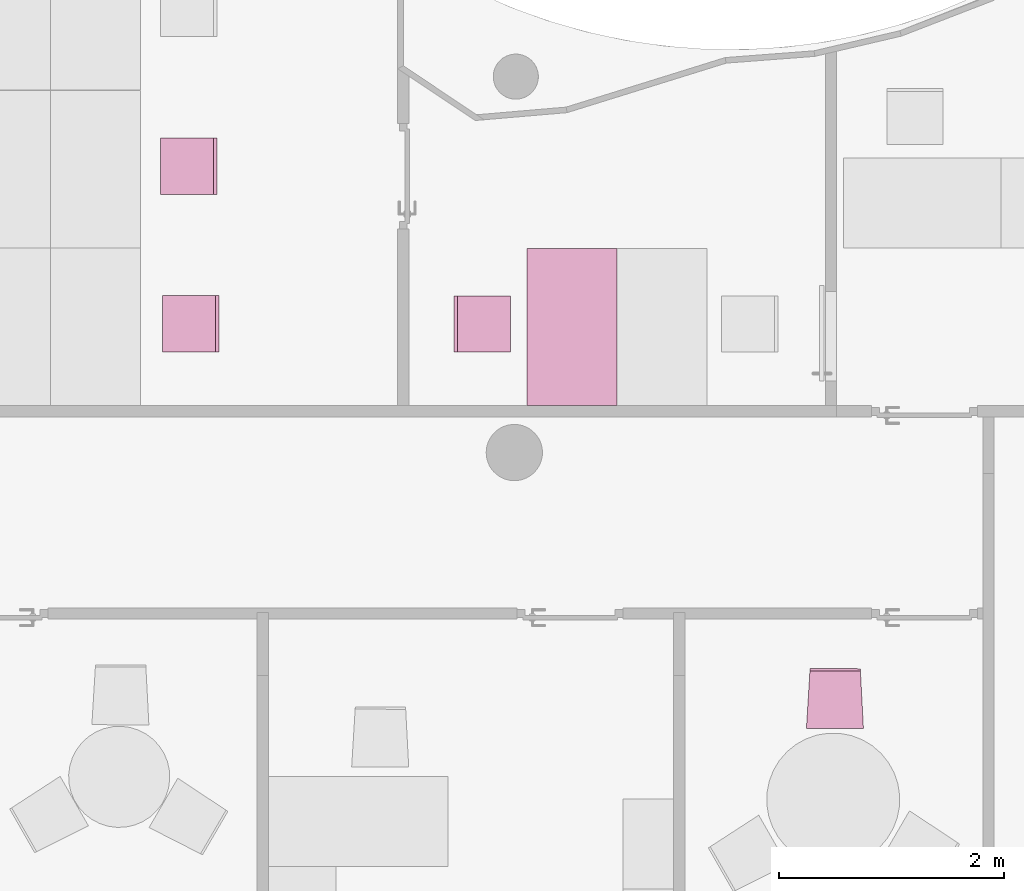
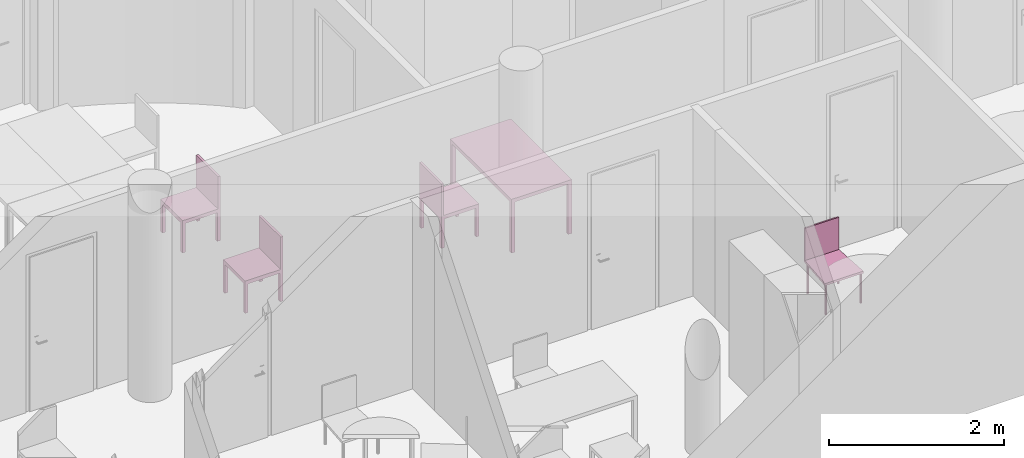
"""IFC4 building model written with IfcOpenShell, lengths in metres."""

from ifc_helpers import new_model, entity, si_unit, converted_unit, derived_unit, frame, origin, place, context, subcontext, project, spatial, faceted_brep, element, save


model = new_model("IFC4")

# Units and contexts
model_context = context("Model", 3, precision=1e-05, world=origin())
body_context = subcontext(model_context, "Body", "Model", "MODEL_VIEW")
ifc_project = project(units=[si_unit("LENGTHUNIT", "METRE"), si_unit("AREAUNIT", "SQUARE_METRE"), si_unit("VOLUMEUNIT", "CUBIC_METRE"), si_unit("MASSUNIT", "GRAM", prefix="KILO"), converted_unit("PLANEANGLEUNIT", "DEGREE", entity("IfcPlaneAngleMeasure", 0.0174532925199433), si_unit("PLANEANGLEUNIT", "RADIAN"), dimensions=[0, 0, 0, 0, 0, 0, 0]), derived_unit("THERMALTRANSMITTANCEUNIT", [(si_unit("POWERUNIT", "WATT"), 1), (si_unit("THERMODYNAMICTEMPERATUREUNIT", "KELVIN"), -1), (si_unit("LENGTHUNIT", "METRE"), -2)]), derived_unit("VOLUMETRICFLOWRATEUNIT", [(si_unit("LENGTHUNIT", "METRE"), 3), (converted_unit("TIMEUNIT", "hour", entity("IfcTimeMeasure", 3600.0), si_unit("TIMEUNIT", "SECOND"), dimensions=[0, 0, 1, 0, 0, 0, 0]), -1), (si_unit("LENGTHUNIT", "METRE"), -1)])], contexts=[model_context])

# Building, storeys
building_placement = place(None, origin())
building = spatial("IfcBuilding", under=ifc_project, at=building_placement, Name="HABITATGE PLURIFAMILIAR", CompositionType="ELEMENT")
storey_1_placement = place(building_placement, frame((0.0, 0.0, 9.26)))
storey_1 = spatial("IfcBuildingStorey", under=building, at=storey_1_placement, Name="PLANTA SEGONA", CompositionType="ELEMENT", Elevation=9.26)
storey_2_placement = place(storey_1_placement, frame((0.0, 0.0, 6.25)))
storey_2 = spatial("IfcBuildingStorey", under=storey_1, at=storey_2_placement, Name="NOU", CompositionType="PARTIAL")

# Furniture
furniture_1_placement = place(storey_2_placement, frame((407.590805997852, 20.093167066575, -6.34505686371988)))
element("IfcFurniture", 1, at=furniture_1_placement, inside=storey_2, Name="Cadira d'Oficina_P2", context=body_context, shape_type="Brep", body=[
    faceted_brep([(0.0, 0.0, 0.4), (0.5, 0.0, 0.4), (0.5, 0.5, 0.4), (0.0, 0.5, 0.4), (0.5, 0.0, 0.45), (0.0, 0.0, 0.45), (0.0, 0.5, 0.45), (0.5, 0.5, 0.45)], [[[0, 1, 2, 3]], [[4, 5, 6, 7]], [[1, 0, 5, 4]], [[2, 1, 4, 7]], [[3, 2, 7, 6]], [[0, 3, 6, 5]]], orient=[[False], [False], [False], [False], [False], [False]]),
    faceted_brep([(0.46, 0.5, 0.0), (0.46, 0.46, 0.0), (0.5, 0.46, 0.0), (0.5, 0.5, 0.0), (0.46, 0.46, 0.4), (0.46, 0.5, 0.4), (0.5, 0.5, 0.4), (0.5, 0.46, 0.4)], [[[0, 1, 2, 3]], [[4, 5, 6, 7]], [[1, 0, 5, 4]], [[2, 1, 4, 7]], [[3, 2, 7, 6]], [[0, 3, 6, 5]]], orient=[[False], [False], [False], [False], [False], [False]]),
    faceted_brep([(0.0, 0.5, 0.0), (0.0, 0.46, 0.0), (0.04, 0.46, 0.0), (0.04, 0.5, 0.0), (0.0, 0.46, 0.4), (0.0, 0.5, 0.4), (0.04, 0.5, 0.4), (0.04, 0.46, 0.4)], [[[0, 1, 2, 3]], [[4, 5, 6, 7]], [[1, 0, 5, 4]], [[2, 1, 4, 7]], [[3, 2, 7, 6]], [[0, 3, 6, 5]]], orient=[[False], [False], [False], [False], [False], [False]]),
    faceted_brep([(0.46, 0.04, 0.0), (0.46, 0.0, 0.0), (0.5, 0.0, 0.0), (0.5, 0.04, 0.0), (0.46, 0.0, 0.4), (0.46, 0.04, 0.4), (0.5, 0.04, 0.4), (0.5, 0.0, 0.4)], [[[0, 1, 2, 3]], [[4, 5, 6, 7]], [[1, 0, 5, 4]], [[2, 1, 4, 7]], [[3, 2, 7, 6]], [[0, 3, 6, 5]]], orient=[[False], [False], [False], [False], [False], [False]]),
    faceted_brep([(0.0, 0.04, 0.0), (0.0, 0.0, 0.0), (0.04, 0.0, 0.0), (0.04, 0.04, 0.0), (0.0, 0.0, 0.4), (0.0, 0.04, 0.4), (0.04, 0.04, 0.4), (0.04, 0.0, 0.4)], [[[0, 1, 2, 3]], [[4, 5, 6, 7]], [[1, 0, 5, 4]], [[2, 1, 4, 7]], [[3, 2, 7, 6]], [[0, 3, 6, 5]]], orient=[[False], [False], [False], [False], [False], [False]]),
    faceted_brep([(0.47, 0.5, 0.45), (0.47, 0.0, 0.45), (0.5, 0.0, 0.45), (0.5, 0.5, 0.45), (0.47, 0.0, 0.9), (0.47, 0.5, 0.9), (0.5, 0.5, 0.9), (0.5, 0.0, 0.9)], [[[0, 1, 2, 3]], [[4, 5, 6, 7]], [[1, 0, 5, 4]], [[2, 1, 4, 7]], [[3, 2, 7, 6]], [[0, 3, 6, 5]]], orient=[[False], [False], [False], [False], [False], [False]]),
])
furniture_2_placement = place(storey_2_placement, frame((407.609289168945, 18.693167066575, -6.34507213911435)))
element("IfcFurniture", 2, at=furniture_2_placement, inside=storey_2, Name="Cadira d'Oficina_P2", context=body_context, shape_type="Brep", body=[
    faceted_brep([(0.0, 0.0, 0.4), (0.5, 0.0, 0.4), (0.5, 0.5, 0.4), (0.0, 0.5, 0.4), (0.5, 0.0, 0.45), (0.0, 0.0, 0.45), (0.0, 0.5, 0.45), (0.5, 0.5, 0.45)], [[[0, 1, 2, 3]], [[4, 5, 6, 7]], [[1, 0, 5, 4]], [[2, 1, 4, 7]], [[3, 2, 7, 6]], [[0, 3, 6, 5]]], orient=[[False], [False], [False], [False], [False], [False]]),
    faceted_brep([(0.46, 0.5, 0.0), (0.46, 0.46, 0.0), (0.5, 0.46, 0.0), (0.5, 0.5, 0.0), (0.46, 0.46, 0.4), (0.46, 0.5, 0.4), (0.5, 0.5, 0.4), (0.5, 0.46, 0.4)], [[[0, 1, 2, 3]], [[4, 5, 6, 7]], [[1, 0, 5, 4]], [[2, 1, 4, 7]], [[3, 2, 7, 6]], [[0, 3, 6, 5]]], orient=[[False], [False], [False], [False], [False], [False]]),
    faceted_brep([(0.0, 0.5, 0.0), (0.0, 0.46, 0.0), (0.04, 0.46, 0.0), (0.04, 0.5, 0.0), (0.0, 0.46, 0.4), (0.0, 0.5, 0.4), (0.04, 0.5, 0.4), (0.04, 0.46, 0.4)], [[[0, 1, 2, 3]], [[4, 5, 6, 7]], [[1, 0, 5, 4]], [[2, 1, 4, 7]], [[3, 2, 7, 6]], [[0, 3, 6, 5]]], orient=[[False], [False], [False], [False], [False], [False]]),
    faceted_brep([(0.46, 0.04, 0.0), (0.46, 0.0, 0.0), (0.5, 0.0, 0.0), (0.5, 0.04, 0.0), (0.46, 0.0, 0.4), (0.46, 0.04, 0.4), (0.5, 0.04, 0.4), (0.5, 0.0, 0.4)], [[[0, 1, 2, 3]], [[4, 5, 6, 7]], [[1, 0, 5, 4]], [[2, 1, 4, 7]], [[3, 2, 7, 6]], [[0, 3, 6, 5]]], orient=[[False], [False], [False], [False], [False], [False]]),
    faceted_brep([(0.0, 0.04, 0.0), (0.0, 0.0, 0.0), (0.04, 0.0, 0.0), (0.04, 0.04, 0.0), (0.0, 0.0, 0.4), (0.0, 0.04, 0.4), (0.04, 0.04, 0.4), (0.04, 0.0, 0.4)], [[[0, 1, 2, 3]], [[4, 5, 6, 7]], [[1, 0, 5, 4]], [[2, 1, 4, 7]], [[3, 2, 7, 6]], [[0, 3, 6, 5]]], orient=[[False], [False], [False], [False], [False], [False]]),
    faceted_brep([(0.47, 0.5, 0.45), (0.47, 0.0, 0.45), (0.5, 0.0, 0.45), (0.5, 0.5, 0.45), (0.47, 0.0, 0.9), (0.47, 0.5, 0.9), (0.5, 0.5, 0.9), (0.5, 0.0, 0.9)], [[[0, 1, 2, 3]], [[4, 5, 6, 7]], [[1, 0, 5, 4]], [[2, 1, 4, 7]], [[3, 2, 7, 6]], [[0, 3, 6, 5]]], orient=[[False], [False], [False], [False], [False], [False]]),
])
furniture_3_placement = place(storey_2_placement, frame((410.846984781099, 18.2166469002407, -6.3499999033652)))
element("IfcFurniture", 3, at=furniture_3_placement, inside=storey_2, Name="Taula 140X80_P2", context=body_context, shape_type="Brep", body=[
    faceted_brep([(0.750069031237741, 1.35357768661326, 0.0), (0.800069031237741, 1.35357768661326, 0.0), (0.800069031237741, 1.39732768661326, 0.0), (0.750069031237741, 1.39732768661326, 0.0), (0.800069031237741, 1.35357768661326, 0.7), (0.750069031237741, 1.35357768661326, 0.7), (0.750069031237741, 1.39732768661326, 0.7), (0.800069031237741, 1.39732768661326, 0.7)], [[[0, 1, 2, 3]], [[4, 5, 6, 7]], [[1, 0, 5, 4]], [[2, 1, 4, 7]], [[3, 2, 7, 6]], [[0, 3, 6, 5]]], orient=[[False], [False], [False], [False], [False], [False]]),
    faceted_brep([(0.0, 1.35357768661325, 0.0), (0.05, 1.35357768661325, 0.0), (0.05, 1.39732768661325, 0.0), (0.0, 1.39732768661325, 0.0), (0.05, 1.35357768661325, 0.7), (0.0, 1.35357768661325, 0.7), (0.0, 1.39732768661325, 0.7), (0.05, 1.39732768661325, 0.7)], [[[0, 1, 2, 3]], [[4, 5, 6, 7]], [[1, 0, 5, 4]], [[2, 1, 4, 7]], [[3, 2, 7, 6]], [[0, 3, 6, 5]]], orient=[[False], [False], [False], [False], [False], [False]]),
    faceted_brep([(0.0, 0.0, 0.7), (0.800069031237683, 0.0, 0.7), (0.800069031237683, 1.39732768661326, 0.7), (0.0, 1.39732768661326, 0.7), (0.800069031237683, 0.0, 0.75), (0.0, 0.0, 0.75), (0.0, 1.39732768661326, 0.75), (0.800069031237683, 1.39732768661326, 0.75)], [[[0, 1, 2, 3]], [[4, 5, 6, 7]], [[1, 0, 5, 4]], [[2, 1, 4, 7]], [[3, 2, 7, 6]], [[0, 3, 6, 5]]], orient=[[False], [False], [False], [False], [False], [False]]),
    faceted_brep([(0.750069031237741, 0.0, 0.0), (0.800069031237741, 0.0, 0.0), (0.800069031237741, 0.0437500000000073, 0.0), (0.750069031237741, 0.0437500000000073, 0.0), (0.800069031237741, 0.0, 0.7), (0.750069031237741, 0.0, 0.7), (0.750069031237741, 0.0437500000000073, 0.7), (0.800069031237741, 0.0437500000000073, 0.7)], [[[0, 1, 2, 3]], [[4, 5, 6, 7]], [[1, 0, 5, 4]], [[2, 1, 4, 7]], [[3, 2, 7, 6]], [[0, 3, 6, 5]]], orient=[[False], [False], [False], [False], [False], [False]]),
    faceted_brep([(0.0, 0.0, 0.0), (0.05, 0.0, 0.0), (0.05, 0.04375, 0.0), (0.0, 0.04375, 0.0), (0.05, 0.0, 0.7), (0.0, 0.0, 0.7), (0.0, 0.04375, 0.7), (0.05, 0.04375, 0.7)], [[[0, 1, 2, 3]], [[4, 5, 6, 7]], [[1, 0, 5, 4]], [[2, 1, 4, 7]], [[3, 2, 7, 6]], [[0, 3, 6, 5]]], orient=[[False], [False], [False], [False], [False], [False]]),
])
furniture_4_placement = place(storey_2_placement, frame((410.197868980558, 18.6919879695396, -6.34505686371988)))
element("IfcFurniture", 4, at=furniture_4_placement, inside=storey_2, Name="Cadira d'Oficina_P2", context=body_context, shape_type="Brep", body=[
    faceted_brep([(0.5, 0.0, 0.4), (0.5, 0.5, 0.4), (0.0, 0.5, 0.4), (0.0, 0.0, 0.4), (0.0, 0.0, 0.45), (0.0, 0.5, 0.45), (0.5, 0.5, 0.45), (0.5, 0.0, 0.45)], [[[0, 1, 2, 3]], [[4, 5, 6, 7]], [[3, 4, 7, 0]], [[2, 5, 4, 3]], [[1, 6, 5, 2]], [[0, 7, 6, 1]]], orient=[[False], [False], [False], [False], [False], [False]]),
    faceted_brep([(0.04, 0.5, 0.0), (0.0, 0.5, 0.0), (0.0, 0.46, 0.0), (0.04, 0.46, 0.0), (0.04, 0.46, 0.4), (0.0, 0.46, 0.4), (0.0, 0.5, 0.4), (0.04, 0.5, 0.4)], [[[0, 1, 2, 3]], [[4, 5, 6, 7]], [[3, 4, 7, 0]], [[2, 5, 4, 3]], [[1, 6, 5, 2]], [[0, 7, 6, 1]]], orient=[[False], [False], [False], [False], [False], [False]]),
    faceted_brep([(0.5, 0.5, 0.0), (0.46, 0.5, 0.0), (0.46, 0.46, 0.0), (0.5, 0.46, 0.0), (0.5, 0.46, 0.4), (0.46, 0.46, 0.4), (0.46, 0.5, 0.4), (0.5, 0.5, 0.4)], [[[0, 1, 2, 3]], [[4, 5, 6, 7]], [[3, 4, 7, 0]], [[2, 5, 4, 3]], [[1, 6, 5, 2]], [[0, 7, 6, 1]]], orient=[[False], [False], [False], [False], [False], [False]]),
    faceted_brep([(0.04, 0.04, 0.0), (0.0, 0.04, 0.0), (0.0, 0.0, 0.0), (0.04, 0.0, 0.0), (0.04, 0.0, 0.4), (0.0, 0.0, 0.4), (0.0, 0.04, 0.4), (0.04, 0.04, 0.4)], [[[0, 1, 2, 3]], [[4, 5, 6, 7]], [[3, 4, 7, 0]], [[2, 5, 4, 3]], [[1, 6, 5, 2]], [[0, 7, 6, 1]]], orient=[[False], [False], [False], [False], [False], [False]]),
    faceted_brep([(0.5, 0.04, 0.0), (0.46, 0.04, 0.0), (0.46, 0.0, 0.0), (0.5, 0.0, 0.0), (0.5, 0.0, 0.4), (0.46, 0.0, 0.4), (0.46, 0.04, 0.4), (0.5, 0.04, 0.4)], [[[0, 1, 2, 3]], [[4, 5, 6, 7]], [[3, 4, 7, 0]], [[2, 5, 4, 3]], [[1, 6, 5, 2]], [[0, 7, 6, 1]]], orient=[[False], [False], [False], [False], [False], [False]]),
    faceted_brep([(0.03, 0.5, 0.45), (0.0, 0.5, 0.45), (0.0, 0.0, 0.45), (0.03, 0.0, 0.45), (0.03, 0.0, 0.9), (0.0, 0.0, 0.9), (0.0, 0.5, 0.9), (0.03, 0.5, 0.9)], [[[0, 1, 2, 3]], [[4, 5, 6, 7]], [[3, 4, 7, 0]], [[2, 5, 4, 3]], [[1, 6, 5, 2]], [[0, 7, 6, 1]]], orient=[[False], [False], [False], [False], [False], [False]]),
])
furniture_5_placement = place(storey_2_placement, frame((413.329033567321, 15.3458010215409, -6.3514820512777)))
element("IfcFurniture", 5, at=furniture_5_placement, inside=storey_2, Name="Cadira confident_P2", context=body_context, shape_type="Brep", body=[
    faceted_brep([(0.0392724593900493, 0.0271272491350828, 0.0), (0.0390567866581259, 0.0297221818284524, 0.0), (0.038393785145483, 0.0322402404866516, 0.0), (0.0373035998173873, 0.0346049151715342, 0.0), (0.0358193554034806, 0.036744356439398, 0.0), (0.0339861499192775, 0.0385935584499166, 0.0), (0.0318596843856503, 0.0400963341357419, 0.0), (0.0295045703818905, 0.0412070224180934, 0.0), (0.0269923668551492, 0.0418918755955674, 0.0), (0.024399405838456, 0.0421300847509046, 0.0), (0.0218044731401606, 0.041914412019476, 0.0), (0.0192864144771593, 0.04125141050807, 0.0), (0.0169217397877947, 0.040161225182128, 0.0), (0.0147822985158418, 0.0386769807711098, 0.0), (0.012933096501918, 0.0368437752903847, 0.0), (0.0114303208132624, 0.0347173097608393, 0.0), (0.0103196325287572, 0.0323621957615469, 0.0), (0.00963477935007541, 0.0298499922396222, 0.0), (0.00939657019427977, 0.0272570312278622, 0.0), (0.00961224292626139, 0.0246620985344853, 0.0), (0.0102752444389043, 0.0221440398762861, 0.0), (0.0113654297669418, 0.0197793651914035, 0.0), (0.0128496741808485, 0.0176399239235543, 0.0), (0.0146828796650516, 0.0157907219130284, 0.0), (0.016809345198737, 0.0142879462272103, 0.0), (0.0191644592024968, 0.0131772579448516, 0.0), (0.02167666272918, 0.0124924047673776, 0.0), (0.0242696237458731, 0.0122541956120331, 0.0), (0.0268645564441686, 0.012469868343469, 0.0), (0.0293826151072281, 0.013132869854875, 0.0), (0.0317472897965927, 0.0142230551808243, 0.0), (0.0338867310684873, 0.0157072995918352, 0.0), (0.0357359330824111, 0.0175405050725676, 0.0), (0.0372387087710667, 0.0196669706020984, 0.0), (0.0383493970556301, 0.0220220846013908, 0.0), (0.0390342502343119, 0.0245342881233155, 0.0), (0.0392724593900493, 0.0271272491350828, 0.448281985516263), (0.0390342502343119, 0.0245342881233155, 0.448281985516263), (0.0383493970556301, 0.0220220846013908, 0.448281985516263), (0.0372387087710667, 0.0196669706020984, 0.448281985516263), (0.0357359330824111, 0.0175405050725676, 0.448281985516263), (0.0338867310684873, 0.0157072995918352, 0.448281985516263), (0.0317472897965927, 0.0142230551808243, 0.448281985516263), (0.0293826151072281, 0.013132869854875, 0.448281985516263), (0.0268645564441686, 0.012469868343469, 0.448281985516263), (0.0242696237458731, 0.0122541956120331, 0.448281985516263), (0.02167666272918, 0.0124924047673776, 0.448281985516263), (0.0191644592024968, 0.0131772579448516, 0.448281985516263), (0.016809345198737, 0.0142879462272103, 0.448281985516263), (0.0146828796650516, 0.0157907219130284, 0.448281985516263), (0.0128496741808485, 0.0176399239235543, 0.448281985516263), (0.0113654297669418, 0.0197793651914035, 0.448281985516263), (0.0102752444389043, 0.0221440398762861, 0.448281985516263), (0.00961224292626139, 0.0246620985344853, 0.448281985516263), (0.00939657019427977, 0.0272570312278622, 0.448281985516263), (0.00963477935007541, 0.0298499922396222, 0.448281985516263), (0.0103196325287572, 0.0323621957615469, 0.448281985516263), (0.0114303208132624, 0.0347173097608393, 0.448281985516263), (0.012933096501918, 0.0368437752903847, 0.448281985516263), (0.0147822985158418, 0.0386769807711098, 0.448281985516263), (0.0169217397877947, 0.040161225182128, 0.448281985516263), (0.0192864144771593, 0.04125141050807, 0.448281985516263), (0.0218044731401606, 0.041914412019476, 0.448281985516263), (0.024399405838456, 0.0421300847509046, 0.448281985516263), (0.0269923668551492, 0.0418918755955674, 0.448281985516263), (0.0295045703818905, 0.0412070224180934, 0.448281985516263), (0.0318596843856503, 0.0400963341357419, 0.448281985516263), (0.0339861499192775, 0.0385935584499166, 0.448281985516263), (0.0358193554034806, 0.036744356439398, 0.448281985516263), (0.0373035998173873, 0.0346049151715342, 0.448281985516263), (0.038393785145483, 0.0322402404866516, 0.448281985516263), (0.0390567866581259, 0.0297221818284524, 0.448281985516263)], [[[0, 1, 2, 3, 4, 5, 6, 7, 8, 9, 10, 11, 12, 13, 14, 15, 16, 17, 18, 19, 20, 21, 22, 23, 24, 25, 26, 27, 28, 29, 30, 31, 32, 33, 34, 35]], [[36, 37, 38, 39, 40, 41, 42, 43, 44, 45, 46, 47, 48, 49, 50, 51, 52, 53, 54, 55, 56, 57, 58, 59, 60, 61, 62, 63, 64, 65, 66, 67, 68, 69, 70, 71]], [[1, 0, 36, 71]], [[2, 1, 71, 70]], [[3, 2, 70, 69]], [[4, 3, 69, 68]], [[5, 4, 68, 67]], [[6, 5, 67, 66]], [[7, 6, 66, 65]], [[8, 7, 65, 64]], [[9, 8, 64, 63]], [[10, 9, 63, 62]], [[11, 10, 62, 61]], [[12, 11, 61, 60]], [[13, 12, 60, 59]], [[14, 13, 59, 58]], [[15, 14, 58, 57]], [[16, 15, 57, 56]], [[17, 16, 56, 55]], [[18, 17, 55, 54]], [[19, 18, 54, 53]], [[20, 19, 53, 52]], [[21, 20, 52, 51]], [[22, 21, 51, 50]], [[23, 22, 50, 49]], [[24, 23, 49, 48]], [[25, 24, 48, 47]], [[26, 25, 47, 46]], [[27, 26, 46, 45]], [[28, 27, 45, 44]], [[29, 28, 44, 43]], [[30, 29, 43, 42]], [[31, 30, 42, 41]], [[32, 31, 41, 40]], [[33, 32, 40, 39]], [[34, 33, 39, 38]], [[35, 34, 38, 37]], [[0, 35, 37, 36]]], orient=[[False], [False], [False], [False], [False], [False], [False], [False], [False], [False], [False], [False], [False], [False], [False], [False], [False], [False], [False], [False], [False], [False], [False], [False], [False], [False], [False], [False], [False], [False], [False], [False], [False], [False], [False], [False], [False], [False]]),
    faceted_brep([(0.0689188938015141, 0.489409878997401, 0.0), (0.0687032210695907, 0.492004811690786, 0.0), (0.0680402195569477, 0.494522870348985, 0.0), (0.066950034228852, 0.49688754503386, 0.0), (0.0654657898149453, 0.499026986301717, 0.0), (0.0636325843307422, 0.500876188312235, 0.0), (0.0615061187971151, 0.50237896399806, 0.0), (0.059151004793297, 0.503489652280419, 0.0), (0.0566388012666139, 0.504174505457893, 0.0), (0.0540458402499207, 0.50441271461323, 0.0), (0.0514509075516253, 0.504197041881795, 0.0), (0.048932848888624, 0.503534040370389, 0.0), (0.0465681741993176, 0.502443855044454, 0.0), (0.0444287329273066, 0.500959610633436, 0.0), (0.0425795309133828, 0.499126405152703, 0.0), (0.0410767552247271, 0.496999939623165, 0.0), (0.0399660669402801, 0.49464482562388, 0.0), (0.0392812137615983, 0.492132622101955, 0.0), (0.0390430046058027, 0.489539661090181, 0.0), (0.0392586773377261, 0.486944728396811, 0.0), (0.0399216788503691, 0.484426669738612, 0.0), (0.0410118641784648, 0.482061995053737, 0.0), (0.0424961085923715, 0.479922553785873, 0.0), (0.0443293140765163, 0.478073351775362, 0.0), (0.0464557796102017, 0.476570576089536, 0.0), (0.0488108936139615, 0.47545988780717, 0.0), (0.0513230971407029, 0.474775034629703, 0.0), (0.053916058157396, 0.474536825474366, 0.0), (0.0565109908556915, 0.474752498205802, 0.0), (0.0590290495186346, 0.475415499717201, 0.0), (0.0613937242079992, 0.476505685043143, 0.0), (0.063533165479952, 0.477989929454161, 0.0), (0.065382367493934, 0.479823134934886, 0.0), (0.0668851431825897, 0.481949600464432, 0.0), (0.0679958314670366, 0.484304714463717, 0.0), (0.0686806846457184, 0.486816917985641, 0.0), (0.0689188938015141, 0.489409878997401, 0.448281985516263), (0.0686806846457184, 0.486816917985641, 0.448281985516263), (0.0679958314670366, 0.484304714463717, 0.448281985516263), (0.0668851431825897, 0.481949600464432, 0.448281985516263), (0.065382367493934, 0.479823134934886, 0.448281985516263), (0.063533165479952, 0.477989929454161, 0.448281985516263), (0.0613937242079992, 0.476505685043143, 0.448281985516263), (0.0590290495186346, 0.475415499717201, 0.448281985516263), (0.0565109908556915, 0.474752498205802, 0.448281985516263), (0.053916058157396, 0.474536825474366, 0.448281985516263), (0.0513230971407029, 0.474775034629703, 0.448281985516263), (0.0488108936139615, 0.47545988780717, 0.448281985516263), (0.0464557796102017, 0.476570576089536, 0.448281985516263), (0.0443293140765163, 0.478073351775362, 0.448281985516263), (0.0424961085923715, 0.479922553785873, 0.448281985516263), (0.0410118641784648, 0.482061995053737, 0.448281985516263), (0.0399216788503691, 0.484426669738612, 0.448281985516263), (0.0392586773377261, 0.486944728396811, 0.448281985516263), (0.0390430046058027, 0.489539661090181, 0.448281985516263), (0.0392812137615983, 0.492132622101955, 0.448281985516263), (0.0399660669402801, 0.49464482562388, 0.448281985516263), (0.0410767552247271, 0.496999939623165, 0.448281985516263), (0.0425795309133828, 0.499126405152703, 0.448281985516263), (0.0444287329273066, 0.500959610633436, 0.448281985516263), (0.0465681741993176, 0.502443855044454, 0.448281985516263), (0.048932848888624, 0.503534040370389, 0.448281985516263), (0.0514509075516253, 0.504197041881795, 0.448281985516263), (0.0540458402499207, 0.50441271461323, 0.448281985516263), (0.0566388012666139, 0.504174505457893, 0.448281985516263), (0.059151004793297, 0.503489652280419, 0.448281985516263), (0.0615061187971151, 0.50237896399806, 0.448281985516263), (0.0636325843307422, 0.500876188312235, 0.448281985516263), (0.0654657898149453, 0.499026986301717, 0.448281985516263), (0.066950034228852, 0.49688754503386, 0.448281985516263), (0.0680402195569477, 0.494522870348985, 0.448281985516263), (0.0687032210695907, 0.492004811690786, 0.448281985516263)], [[[0, 1, 2, 3, 4, 5, 6, 7, 8, 9, 10, 11, 12, 13, 14, 15, 16, 17, 18, 19, 20, 21, 22, 23, 24, 25, 26, 27, 28, 29, 30, 31, 32, 33, 34, 35]], [[36, 37, 38, 39, 40, 41, 42, 43, 44, 45, 46, 47, 48, 49, 50, 51, 52, 53, 54, 55, 56, 57, 58, 59, 60, 61, 62, 63, 64, 65, 66, 67, 68, 69, 70, 71]], [[1, 0, 36, 71]], [[2, 1, 71, 70]], [[3, 2, 70, 69]], [[4, 3, 69, 68]], [[5, 4, 68, 67]], [[6, 5, 67, 66]], [[7, 6, 66, 65]], [[8, 7, 65, 64]], [[9, 8, 64, 63]], [[10, 9, 63, 62]], [[11, 10, 62, 61]], [[12, 11, 61, 60]], [[13, 12, 60, 59]], [[14, 13, 59, 58]], [[15, 14, 58, 57]], [[16, 15, 57, 56]], [[17, 16, 56, 55]], [[18, 17, 55, 54]], [[19, 18, 54, 53]], [[20, 19, 53, 52]], [[21, 20, 52, 51]], [[22, 21, 51, 50]], [[23, 22, 50, 49]], [[24, 23, 49, 48]], [[25, 24, 48, 47]], [[26, 25, 47, 46]], [[27, 26, 46, 45]], [[28, 27, 45, 44]], [[29, 28, 44, 43]], [[30, 29, 43, 42]], [[31, 30, 42, 41]], [[32, 31, 41, 40]], [[33, 32, 40, 39]], [[34, 33, 39, 38]], [[35, 34, 38, 37]], [[0, 35, 37, 36]]], orient=[[False], [False], [False], [False], [False], [False], [False], [False], [False], [False], [False], [False], [False], [False], [False], [False], [False], [False], [False], [False], [False], [False], [False], [False], [False], [False], [False], [False], [False], [False], [False], [False], [False], [False], [False], [False], [False], [False]]),
    faceted_brep([(0.499268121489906, 0.0251290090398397, 0.0), (0.499052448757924, 0.0277239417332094, 0.0), (0.498389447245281, 0.0302420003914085, 0.0), (0.497299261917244, 0.0326066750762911, 0.0), (0.495815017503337, 0.0347461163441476, 0.0), (0.493981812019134, 0.0365953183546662, 0.0), (0.491855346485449, 0.0380980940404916, 0.0), (0.489500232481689, 0.0392087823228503, 0.0), (0.486988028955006, 0.0398936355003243, 0.0), (0.484395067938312, 0.0401318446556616, 0.0), (0.481800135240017, 0.0399161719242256, 0.0), (0.479282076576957, 0.0392531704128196, 0.0), (0.476917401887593, 0.0381629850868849, 0.0), (0.474777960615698, 0.0366787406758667, 0.0), (0.472928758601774, 0.0348455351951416, 0.0), (0.471425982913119, 0.0327190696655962, 0.0), (0.470315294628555, 0.0303639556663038, 0.0), (0.469630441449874, 0.0278517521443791, 0.0), (0.469392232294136, 0.0252587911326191, 0.0), (0.46960790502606, 0.0226638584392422, 0.0), (0.470270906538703, 0.020145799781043, 0.0), (0.471361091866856, 0.0177811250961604, 0.0), (0.472845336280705, 0.0156416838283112, 0.0), (0.474678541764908, 0.0137924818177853, 0.0), (0.476805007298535, 0.0122897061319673, 0.0), (0.479160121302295, 0.0111790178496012, 0.0), (0.481672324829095, 0.0104941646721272, 0.0), (0.48426528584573, 0.01025595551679, 0.0), (0.486860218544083, 0.0104716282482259, 0.0), (0.489378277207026, 0.0111346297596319, 0.0), (0.491742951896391, 0.0122248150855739, 0.0), (0.493882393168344, 0.0137090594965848, 0.0), (0.495731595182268, 0.0155422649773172, 0.0), (0.497234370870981, 0.0176687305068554, 0.0), (0.498345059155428, 0.0200238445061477, 0.0), (0.49902991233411, 0.0225360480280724, 0.0), (0.499268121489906, 0.0251290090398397, 0.448281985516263), (0.49902991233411, 0.0225360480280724, 0.448281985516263), (0.498345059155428, 0.0200238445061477, 0.448281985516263), (0.497234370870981, 0.0176687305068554, 0.448281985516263), (0.495731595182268, 0.0155422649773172, 0.448281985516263), (0.493882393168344, 0.0137090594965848, 0.448281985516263), (0.491742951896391, 0.0122248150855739, 0.448281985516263), (0.489378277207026, 0.0111346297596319, 0.448281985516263), (0.486860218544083, 0.0104716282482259, 0.448281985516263), (0.48426528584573, 0.01025595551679, 0.448281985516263), (0.481672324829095, 0.0104941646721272, 0.448281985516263), (0.479160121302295, 0.0111790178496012, 0.448281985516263), (0.476805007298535, 0.0122897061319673, 0.448281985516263), (0.474678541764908, 0.0137924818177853, 0.448281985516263), (0.472845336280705, 0.0156416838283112, 0.448281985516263), (0.471361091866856, 0.0177811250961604, 0.448281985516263), (0.470270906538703, 0.020145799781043, 0.448281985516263), (0.46960790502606, 0.0226638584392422, 0.448281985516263), (0.469392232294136, 0.0252587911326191, 0.448281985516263), (0.469630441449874, 0.0278517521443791, 0.448281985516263), (0.470315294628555, 0.0303639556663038, 0.448281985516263), (0.471425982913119, 0.0327190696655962, 0.448281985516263), (0.472928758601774, 0.0348455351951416, 0.448281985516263), (0.474777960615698, 0.0366787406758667, 0.448281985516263), (0.476917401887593, 0.0381629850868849, 0.448281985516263), (0.479282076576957, 0.0392531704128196, 0.448281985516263), (0.481800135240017, 0.0399161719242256, 0.448281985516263), (0.484395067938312, 0.0401318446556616, 0.448281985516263), (0.486988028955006, 0.0398936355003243, 0.448281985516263), (0.489500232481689, 0.0392087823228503, 0.448281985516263), (0.491855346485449, 0.0380980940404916, 0.448281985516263), (0.493981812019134, 0.0365953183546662, 0.448281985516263), (0.495815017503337, 0.0347461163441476, 0.448281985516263), (0.497299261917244, 0.0326066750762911, 0.448281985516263), (0.498389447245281, 0.0302420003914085, 0.448281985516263), (0.499052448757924, 0.0277239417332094, 0.448281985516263)], [[[0, 1, 2, 3, 4, 5, 6, 7, 8, 9, 10, 11, 12, 13, 14, 15, 16, 17, 18, 19, 20, 21, 22, 23, 24, 25, 26, 27, 28, 29, 30, 31, 32, 33, 34, 35]], [[36, 37, 38, 39, 40, 41, 42, 43, 44, 45, 46, 47, 48, 49, 50, 51, 52, 53, 54, 55, 56, 57, 58, 59, 60, 61, 62, 63, 64, 65, 66, 67, 68, 69, 70, 71]], [[1, 0, 36, 71]], [[2, 1, 71, 70]], [[3, 2, 70, 69]], [[4, 3, 69, 68]], [[5, 4, 68, 67]], [[6, 5, 67, 66]], [[7, 6, 66, 65]], [[8, 7, 65, 64]], [[9, 8, 64, 63]], [[10, 9, 63, 62]], [[11, 10, 62, 61]], [[12, 11, 61, 60]], [[13, 12, 60, 59]], [[14, 13, 59, 58]], [[15, 14, 58, 57]], [[16, 15, 57, 56]], [[17, 16, 56, 55]], [[18, 17, 55, 54]], [[19, 18, 54, 53]], [[20, 19, 53, 52]], [[21, 20, 52, 51]], [[22, 21, 51, 50]], [[23, 22, 50, 49]], [[24, 23, 49, 48]], [[25, 24, 48, 47]], [[26, 25, 47, 46]], [[27, 26, 46, 45]], [[28, 27, 45, 44]], [[29, 28, 44, 43]], [[30, 29, 43, 42]], [[31, 30, 42, 41]], [[32, 31, 41, 40]], [[33, 32, 40, 39]], [[34, 33, 39, 38]], [[35, 34, 38, 37]], [[0, 35, 37, 36]]], orient=[[False], [False], [False], [False], [False], [False], [False], [False], [False], [False], [False], [False], [False], [False], [False], [False], [False], [False], [False], [False], [False], [False], [False], [False], [False], [False], [False], [False], [False], [False], [False], [False], [False], [False], [False], [False], [False], [False]]),
    faceted_brep([(0.468915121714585, 0.487672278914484, 0.0), (0.468699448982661, 0.490267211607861, 0.0), (0.46803644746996, 0.492785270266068, 0.0), (0.466946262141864, 0.495149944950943, 0.0), (0.465462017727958, 0.497289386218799, 0.0), (0.463628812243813, 0.499138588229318, 0.0), (0.461502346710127, 0.500641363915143, 0.0), (0.459147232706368, 0.501752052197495, 0.0), (0.456635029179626, 0.502436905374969, 0.0), (0.454042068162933, 0.502675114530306, 0.0), (0.451447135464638, 0.502459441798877, 0.0), (0.448929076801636, 0.501796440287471, 0.0), (0.44656440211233, 0.500706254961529, 0.0), (0.444424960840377, 0.499222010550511, 0.0), (0.442575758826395, 0.497388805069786, 0.0), (0.441072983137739, 0.495262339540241, 0.0), (0.439962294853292, 0.492907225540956, 0.0), (0.439277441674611, 0.490395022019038, 0.0), (0.439039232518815, 0.487802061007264, 0.0), (0.439254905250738, 0.485207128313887, 0.0), (0.439917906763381, 0.482689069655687, 0.0), (0.441008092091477, 0.480324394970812, 0.0), (0.442492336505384, 0.478184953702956, 0.0), (0.444325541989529, 0.476335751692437, 0.0), (0.446452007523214, 0.474832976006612, 0.0), (0.448807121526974, 0.473722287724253, 0.0), (0.451319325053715, 0.473037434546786, 0.0), (0.453912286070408, 0.472799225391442, 0.0), (0.456507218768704, 0.473014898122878, 0.0), (0.459025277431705, 0.473677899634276, 0.0), (0.461389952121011, 0.474768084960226, 0.0), (0.463529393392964, 0.476252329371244, 0.0), (0.465378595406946, 0.478085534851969, 0.0), (0.466881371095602, 0.480212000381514, 0.0), (0.467992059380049, 0.482567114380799, 0.0), (0.468676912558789, 0.485079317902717, 0.0), (0.468915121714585, 0.487672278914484, 0.448281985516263), (0.468676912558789, 0.485079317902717, 0.448281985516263), (0.467992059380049, 0.482567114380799, 0.448281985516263), (0.466881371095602, 0.480212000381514, 0.448281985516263), (0.465378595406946, 0.478085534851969, 0.448281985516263), (0.463529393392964, 0.476252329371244, 0.448281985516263), (0.461389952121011, 0.474768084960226, 0.448281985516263), (0.459025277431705, 0.473677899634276, 0.448281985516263), (0.456507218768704, 0.473014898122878, 0.448281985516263), (0.453912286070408, 0.472799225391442, 0.448281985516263), (0.451319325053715, 0.473037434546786, 0.448281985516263), (0.448807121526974, 0.473722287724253, 0.448281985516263), (0.446452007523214, 0.474832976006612, 0.448281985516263), (0.444325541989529, 0.476335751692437, 0.448281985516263), (0.442492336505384, 0.478184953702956, 0.448281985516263), (0.441008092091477, 0.480324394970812, 0.448281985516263), (0.439917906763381, 0.482689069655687, 0.448281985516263), (0.439254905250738, 0.485207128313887, 0.448281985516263), (0.439039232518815, 0.487802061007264, 0.448281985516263), (0.439277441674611, 0.490395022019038, 0.448281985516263), (0.439962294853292, 0.492907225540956, 0.448281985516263), (0.441072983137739, 0.495262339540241, 0.448281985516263), (0.442575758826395, 0.497388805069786, 0.448281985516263), (0.444424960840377, 0.499222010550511, 0.448281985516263), (0.44656440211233, 0.500706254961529, 0.448281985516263), (0.448929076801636, 0.501796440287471, 0.448281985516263), (0.451447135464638, 0.502459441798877, 0.448281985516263), (0.454042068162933, 0.502675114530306, 0.448281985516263), (0.456635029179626, 0.502436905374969, 0.448281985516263), (0.459147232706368, 0.501752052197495, 0.448281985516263), (0.461502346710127, 0.500641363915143, 0.448281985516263), (0.463628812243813, 0.499138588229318, 0.448281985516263), (0.465462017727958, 0.497289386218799, 0.448281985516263), (0.466946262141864, 0.495149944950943, 0.448281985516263), (0.46803644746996, 0.492785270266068, 0.448281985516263), (0.468699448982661, 0.490267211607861, 0.448281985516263)], [[[0, 1, 2, 3, 4, 5, 6, 7, 8, 9, 10, 11, 12, 13, 14, 15, 16, 17, 18, 19, 20, 21, 22, 23, 24, 25, 26, 27, 28, 29, 30, 31, 32, 33, 34, 35]], [[36, 37, 38, 39, 40, 41, 42, 43, 44, 45, 46, 47, 48, 49, 50, 51, 52, 53, 54, 55, 56, 57, 58, 59, 60, 61, 62, 63, 64, 65, 66, 67, 68, 69, 70, 71]], [[1, 0, 36, 71]], [[2, 1, 71, 70]], [[3, 2, 70, 69]], [[4, 3, 69, 68]], [[5, 4, 68, 67]], [[6, 5, 67, 66]], [[7, 6, 66, 65]], [[8, 7, 65, 64]], [[9, 8, 64, 63]], [[10, 9, 63, 62]], [[11, 10, 62, 61]], [[12, 11, 61, 60]], [[13, 12, 60, 59]], [[14, 13, 59, 58]], [[15, 14, 58, 57]], [[16, 15, 57, 56]], [[17, 16, 56, 55]], [[18, 17, 55, 54]], [[19, 18, 54, 53]], [[20, 19, 53, 52]], [[21, 20, 52, 51]], [[22, 21, 51, 50]], [[23, 22, 50, 49]], [[24, 23, 49, 48]], [[25, 24, 48, 47]], [[26, 25, 47, 46]], [[27, 26, 46, 45]], [[28, 27, 45, 44]], [[29, 28, 44, 43]], [[30, 29, 43, 42]], [[31, 30, 42, 41]], [[32, 31, 41, 40]], [[33, 32, 40, 39]], [[34, 33, 39, 38]], [[35, 34, 38, 37]], [[0, 35, 37, 36]]], orient=[[False], [False], [False], [False], [False], [False], [False], [False], [False], [False], [False], [False], [False], [False], [False], [False], [False], [False], [False], [False], [False], [False], [False], [False], [False], [False], [False], [False], [False], [False], [False], [False], [False], [False], [False], [False], [False], [False]]),
    faceted_brep([(0.478823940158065, 0.532733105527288, 0.418281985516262), (0.0323133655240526, 0.534672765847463, 0.418281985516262), (0.0, 0.0022003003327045, 0.418281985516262), (0.506510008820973, 0.0, 0.418281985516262), (0.506510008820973, 0.0, 0.448281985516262), (0.0, 0.0022003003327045, 0.448281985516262), (0.0323133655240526, 0.534672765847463, 0.448281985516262), (0.478823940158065, 0.532733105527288, 0.448281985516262)], [[[0, 1, 2, 3]], [[4, 5, 6, 7]], [[3, 4, 7, 0]], [[2, 5, 4, 3]], [[1, 6, 5, 2]], [[0, 7, 6, 1]]], orient=[[False], [False], [False], [False], [False], [False]]),
    faceted_brep([(0.478737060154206, 0.512733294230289, 0.448281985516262), (0.478823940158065, 0.532733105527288, 0.448281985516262), (0.0323133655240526, 0.534672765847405, 0.448281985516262), (0.0322264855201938, 0.514672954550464, 0.448281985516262), (0.0322264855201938, 0.514672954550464, 0.898281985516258), (0.0323133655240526, 0.534672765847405, 0.898281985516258), (0.478823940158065, 0.532733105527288, 0.898281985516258), (0.478737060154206, 0.512733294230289, 0.898281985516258)], [[[0, 1, 2, 3]], [[4, 5, 6, 7]], [[3, 4, 7, 0]], [[2, 5, 4, 3]], [[1, 6, 5, 2]], [[0, 7, 6, 1]]], orient=[[False], [False], [False], [False], [False], [False]]),
])

save(model, "model.ifc")
